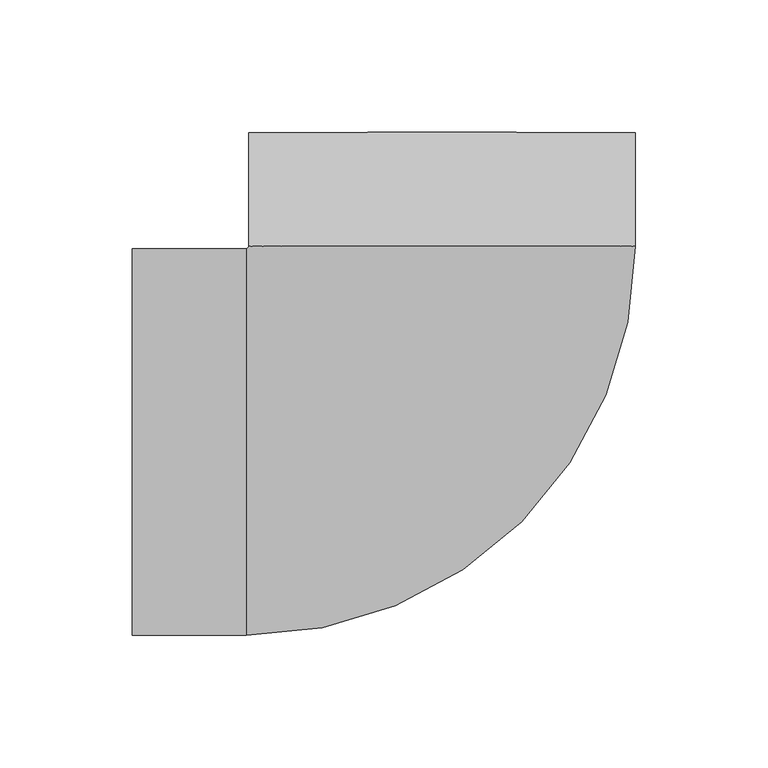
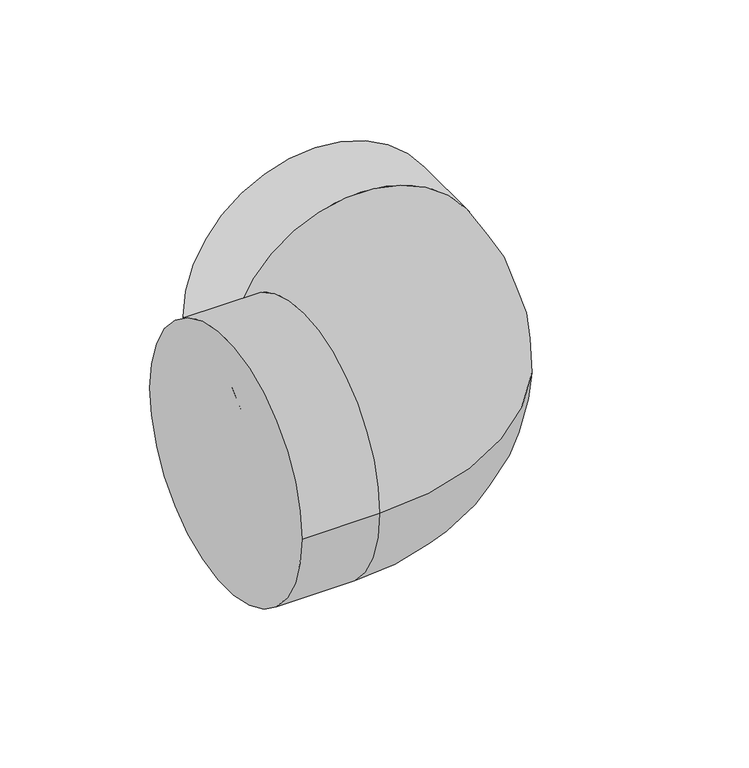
"""IFC4 building model written with IfcOpenShell, lengths in millimetres: pipe fitting geometry, NIRON RED termofusion codo : Estándar."""

import ifcopenshell
import ifcopenshell.guid

model = None  # the IFC model being written
_history = None  # IfcOwnerHistory: only IFC2X3 demands one
_inside = {}  # id of a spatial element -> (the spatial element, [elements in it])
_under = {}  # id of a project, library or spatial element -> (it, [spatial elements below it])
_declared = {}  # id of a project -> (the project, [libraries it declares])
_typed = {}  # id of a type object -> (the type object, [elements of that type])
_made_of = {}  # id of a material, layer set ... -> (it, [elements and type objects made of it])


def new_model(schema):
    """Start an empty IFC model of exactly this schema.

    Asked for "IFC4X3", IfcOpenShell would pick the latest addendum, in which some entities
    have other attributes; the version numbers below select the first issue.
    IFC2X3 requires an IfcOwnerHistory on every rooted entity: one is made here for all.
    """
    global model, _history
    if schema == "IFC4X3":
        model = ifcopenshell.file(schema_version=(4, 3, 0, 0))
    else:
        model = ifcopenshell.file(schema=schema)
    _inside.clear()
    _under.clear()
    _declared.clear()
    _typed.clear()
    _made_of.clear()
    _history = None
    if model.schema == "IFC2X3":
        org = make("IfcOrganization", Name="unknown")
        user = make(
            "IfcPersonAndOrganization",
            ThePerson=make("IfcPerson", FamilyName="unknown"),
            TheOrganization=org,
        )
        app = make(
            "IfcApplication",
            ApplicationDeveloper=org,
            Version="unknown",
            ApplicationFullName="unknown",
            ApplicationIdentifier="unknown",
        )
        _history = make(
            "IfcOwnerHistory",
            OwningUser=user,
            OwningApplication=app,
            ChangeAction="ADDED",
            CreationDate=0,
        )
    return model


def make(cls, **values):
    """One entity of the class cls with the attributes given. An attribute that is None is left unset."""
    return model.create_entity(
        cls, **{name: value for name, value in values.items() if value is not None}
    )


def rooted(cls, **values):
    """An entity with a GlobalId (a new one), such as an element, a storey or a relation."""
    return make(cls, GlobalId=ifcopenshell.guid.new(), OwnerHistory=_history, **values)


def si_unit(unit_type, name, prefix=None):
    """IfcSIUnit, for example si_unit("LENGTHUNIT", "METRE", prefix="MILLI")."""
    return make("IfcSIUnit", UnitType=unit_type, Prefix=prefix, Name=name)


def assignment(units):
    """IfcUnitAssignment: the units of a project."""
    return None if units is None else make("IfcUnitAssignment", Units=units)


def point(xyz):
    """IfcCartesianPoint."""
    return None if xyz is None else make("IfcCartesianPoint", Coordinates=xyz)


def direction(xyz):
    """IfcDirection."""
    return None if xyz is None else make("IfcDirection", DirectionRatios=xyz)


def frame(location, z_axis=None, x_axis=None):
    """IfcAxis2Placement3D, a coordinate frame: its origin and axes. An axis left out is left unset."""
    return make(
        "IfcAxis2Placement3D",
        Location=point(location),
        Axis=direction(z_axis),
        RefDirection=direction(x_axis),
    )


def origin():
    """The frame at (0, 0, 0) with its axes left unset."""
    return frame((0.0, 0.0, 0.0))


def place(relative_to, where):
    """IfcLocalPlacement: puts the frame where relative to a parent placement (None: the world)."""
    return make(
        "IfcLocalPlacement", PlacementRelTo=relative_to, RelativePlacement=where
    )


def context(
    kind, dimensions, precision=None, world=None, true_north=None, identifier=None
):
    """IfcGeometricRepresentationContext, for example the 3D "Model" context."""
    return make(
        "IfcGeometricRepresentationContext",
        ContextIdentifier=identifier,
        ContextType=kind,
        CoordinateSpaceDimension=dimensions,
        Precision=precision,
        WorldCoordinateSystem=world,
        TrueNorth=true_north,
    )


def project(units=None, contexts=None):
    """IfcProject with its units and contexts."""
    return rooted(
        "IfcProject",
        Name="project",
        RepresentationContexts=contexts,
        UnitsInContext=assignment(units),
    )


def spatial(cls, under=None, at=None, **own):
    """A site, building, storey or space (cls), placed at a placement, below another one or the project."""
    s = rooted(cls, ObjectPlacement=at, **own)
    if under is not None:
        _under.setdefault(under.id(), (under, []))[1].append(s)
    return s


def circle_curve(where, radius):
    """IfcCircle in the frame where."""
    return make("IfcCircle", Position=where, Radius=radius)


def ellipse_curve(where, semi_axis1, semi_axis2):
    """IfcEllipse in the frame where."""
    return make(
        "IfcEllipse", Position=where, SemiAxis1=semi_axis1, SemiAxis2=semi_axis2
    )


def trimmed(basis, trim1, trim2, sense, master):
    """IfcTrimmedCurve: the piece of a basis curve between two trims."""
    return make(
        "IfcTrimmedCurve",
        BasisCurve=basis,
        Trim1=trim1,
        Trim2=trim2,
        SenseAgreement=sense,
        MasterRepresentation=master,
    )


def shape(context_of_items, identifier, shape_type, items):
    """IfcShapeRepresentation: the items that make up one representation, for example the "Body"."""
    return make(
        "IfcShapeRepresentation",
        ContextOfItems=context_of_items,
        RepresentationIdentifier=identifier,
        RepresentationType=shape_type,
        Items=items,
    )


def source(mapping_origin, context_of_items, identifier, shape_type, items):
    """IfcRepresentationMap: a shape defined once, which mapped items show again and again."""
    return make(
        "IfcRepresentationMap",
        MappingOrigin=mapping_origin,
        MappedRepresentation=shape(context_of_items, identifier, shape_type, items),
    )


def transform(
    local_origin,
    x_axis=None,
    y_axis=None,
    z_axis=None,
    scale=None,
    scale2=None,
    scale3=None,
    uniform=True,
):
    """IfcCartesianTransformationOperator3D, or its non-uniform kind. x_axis, y_axis, z_axis: its Axis1, 2, 3."""
    if uniform:
        return make(
            "IfcCartesianTransformationOperator3D",
            Axis1=direction(x_axis),
            Axis2=direction(y_axis),
            LocalOrigin=point(local_origin),
            Scale=scale,
            Axis3=direction(z_axis),
        )
    return make(
        "IfcCartesianTransformationOperator3DnonUniform",
        Axis1=direction(x_axis),
        Axis2=direction(y_axis),
        LocalOrigin=point(local_origin),
        Scale=scale,
        Axis3=direction(z_axis),
        Scale2=scale2,
        Scale3=scale3,
    )


def mapped(mapping_source, mapping_target):
    """IfcMappedItem: shows the shape of a source again, moved by a transform."""
    return make(
        "IfcMappedItem", MappingSource=mapping_source, MappingTarget=mapping_target
    )


def made_of(thing, what):
    """Note that an element or type object is made of a material, layer set ...; save() writes the relation."""
    if what is not None:
        _made_of.setdefault(what.id(), (what, []))[1].append(thing)
    return thing


def element(
    cls,
    number,
    at=None,
    inside=None,
    cuts=None,
    type_object=None,
    material=None,
    context=None,
    identifier="Body",
    shape_type=None,
    held_by="IfcProductDefinitionShape",
    body=None,
    shapes=None,
    **own,
):
    """One element of the class cls, such as IfcWall. Its Tag is "e" and its number.

    at: its placement. inside: the storey or other place that contains it. cuts: it is an
    opening in that element (IfcRelVoidsElement). A single representation is given by context,
    identifier, shape_type and body (its items); several are given by shapes. held_by: the class
    of the entity that holds the representations. save() writes the other relations.
    """
    e = rooted(cls, Tag="e%d" % number, ObjectPlacement=at, **own)
    if body is not None:
        shapes = [shape(context, identifier, shape_type, body)]
    if shapes is not None:
        e.Representation = make(held_by, Representations=shapes)
    if inside is not None:
        _inside.setdefault(inside.id(), (inside, []))[1].append(e)
    if cuts is not None:
        rooted(
            "IfcRelVoidsElement", RelatingBuildingElement=cuts, RelatedOpeningElement=e
        )
    if type_object is not None:
        _typed.setdefault(type_object.id(), (type_object, []))[1].append(e)
    return made_of(e, material)


def aggregate(whole, parts):
    """IfcRelAggregates: a whole, such as a stair, and the parts it consists of."""
    return rooted("IfcRelAggregates", RelatingObject=whole, RelatedObjects=parts)


def save(model, path):
    """Write the relations noted so far, then the file.

    IfcRelAggregates (storeys below a building ...), IfcRelContainedInSpatialStructure (elements
    in a storey), IfcRelDefinesByType, IfcRelAssociatesMaterial and IfcRelDeclares: one each for
    every whole, place, type object, material and project.
    """
    for whole, parts in _under.values():
        aggregate(whole, parts)
    for where, things in _inside.values():
        rooted(
            "IfcRelContainedInSpatialStructure",
            RelatedElements=things,
            RelatingStructure=where,
        )
    for kind, things in _typed.values():
        rooted("IfcRelDefinesByType", RelatedObjects=things, RelatingType=kind)
    for what, things in _made_of.values():
        rooted("IfcRelAssociatesMaterial", RelatedObjects=things, RelatingMaterial=what)
    for by, libraries in _declared.values():
        rooted("IfcRelDeclares", RelatingContext=by, RelatedDefinitions=libraries)
    model.write(path)


def plane_surface(at):
    """IfcPlane: the flat surface through the origin of the frame at, square to its z axis."""
    return make("IfcPlane", Position=at)


def cylinder_surface(at, radius):
    """IfcCylindricalSurface: all points at the distance radius from the z axis of the frame at."""
    return make("IfcCylindricalSurface", Position=at, Radius=radius)


def revolved_surface(curve, axis_point, axis_direction):
    """IfcSurfaceOfRevolution: the curve turned about the line through axis_point along axis_direction."""
    return make(
        "IfcSurfaceOfRevolution",
        SweptCurve=make("IfcArbitraryOpenProfileDef", ProfileType="CURVE", Curve=curve),
        AxisPosition=make("IfcAxis1Placement", Location=point(axis_point), Axis=direction(axis_direction)),
    )


def advanced_brep(points, edges, surfaces, faces):
    """IfcAdvancedBrep: a solid bounded by faces that lie on surfaces and meet in shared edges.

    An edge is (start, end): straight between two places in points (the first is 0);
    or (start, end, curve); or (start, end, curve, False) where it runs against its curve.
    A face is (place in surfaces, loops), or (place, loops, False) where it looks against
    its surface's normal. A loop lists edges by number (the first is 1), with a minus sign
    where the edge is run from its end to its start. The first loop is the outer one.
    """
    corners = [point(p) for p in points]
    vertices = [make("IfcVertexPoint", VertexGeometry=c) for c in corners]
    made = []
    for start, end, *more in edges:
        made.append(
            make(
                "IfcEdgeCurve",
                EdgeStart=vertices[start],
                EdgeEnd=vertices[end],
                EdgeGeometry=more[0] if more else make("IfcPolyline", Points=[corners[start], corners[end]]),
                SameSense=more[1] if len(more) > 1 else True,
            )
        )
    hull = []
    for where, loops, *sense in faces:
        bounds = []
        for j, loop in enumerate(loops):
            ring = [make("IfcOrientedEdge", EdgeElement=made[abs(k) - 1], Orientation=k > 0) for k in loop]
            bounds.append(
                make(
                    "IfcFaceOuterBound" if j == 0 else "IfcFaceBound",
                    Bound=make("IfcEdgeLoop", EdgeList=ring),
                    Orientation=True,
                )
            )
        hull.append(make("IfcAdvancedFace", Bounds=bounds, FaceSurface=surfaces[where], SameSense=sense[0] if sense else True))
    return make("IfcAdvancedBrep", Outer=make("IfcClosedShell", CfsFaces=hull))


def pipe_fitting_beeb87af(model_context):
    return source(origin(), model_context, "Body", "AdvancedBrep", [
        advanced_brep(
        [(-116.79375, -73.0, 0.0), (-116.79375, 73.0, 0.0), (-73.79375, -73.0, 0.0), (-73.79375, 73.0, 0.0), (-73.0, 73.79375, 0.0), (73.0, 73.79375, 0.0), (0.0, 73.79375, 73.0), (0.0, 73.79375, -73.0), (73.0, 116.79375, 0.0), (-73.0, 116.79375, 0.0)],
        [
            (0, 1, circle_curve(frame((-116.79375, 0.0, 0.0), z_axis=(-1.0, 0.0, 0.0), x_axis=(0.0, 1.0, 0.0)), 73.0)),
            (1, 0, circle_curve(frame((-116.79375, 0.0, 0.0), z_axis=(-1.0, 0.0, 0.0), x_axis=(0.0, 1.0, 0.0)), 73.0)),
            (0, 2),
            (2, 3, circle_curve(frame((-73.79375, 0.0, 0.0), z_axis=(-1.0, 0.0, 0.0), x_axis=(0.0, 1.0, 0.0)), 73.0)),
            (3, 1),
            (3, 2, circle_curve(frame((-73.79375, 0.0, 0.0), z_axis=(-1.0, 0.0, 0.0), x_axis=(0.0, 1.0, 0.0)), 73.0)),
            (4, 3, circle_curve(frame((-73.79375, 73.79375, 0.0), z_axis=(0.0, 0.0, -1.0), x_axis=(0.0, -1.0, 0.0)), 0.79375)),
            (2, 5, circle_curve(frame((-73.79375, 73.79375, 0.0), z_axis=(0.0, 0.0, 1.0), x_axis=(0.0, -1.0, 0.0)), 146.79375)),
            (5, 6, circle_curve(frame((0.0, 73.79375, 0.0), z_axis=(0.0, -1.0, 0.0), x_axis=(-1.0, 0.0, 0.0)), 73.0)),
            (6, 4, circle_curve(frame((0.0, 73.79375, 0.0), z_axis=(0.0, -1.0, 0.0), x_axis=(-1.0, 0.0, 0.0)), 73.0)),
            (4, 7, circle_curve(frame((0.0, 73.79375, 0.0), z_axis=(0.0, -1.0, 0.0), x_axis=(-1.0, 0.0, 0.0)), 73.0)),
            (7, 5, circle_curve(frame((0.0, 73.79375, 0.0), z_axis=(0.0, -1.0, 0.0), x_axis=(-1.0, 0.0, 0.0)), 73.0)),
            (8, 9, circle_curve(frame((0.0, 116.79375, 0.0), z_axis=(0.0, 1.0, 0.0), x_axis=(-1.0, 0.0, 0.0)), 73.0)),
            (9, 8, circle_curve(frame((0.0, 116.79375, 0.0), z_axis=(0.0, 1.0, 0.0), x_axis=(-1.0, 0.0, 0.0)), 73.0)),
            (9, 4),
            (5, 8),
        ],
        [
            plane_surface(frame((-116.79375, 0.0, 0.0), z_axis=(-1.0, 0.0, 0.0), x_axis=(0.0, 0.0, 1.0))),
            cylinder_surface(frame((-116.79375, 0.0, 0.0), z_axis=(-1.0, 0.0, 0.0), x_axis=(0.0, 1.0, 0.0)), 73.0),
            revolved_surface(trimmed(ellipse_curve(frame((-73.79375, 0.0, 0.0), z_axis=(-1.0, 0.0, 0.0), x_axis=(0.0, 1.0, 0.0)), 73.0, 73.0), [point((-73.79375, -73.0, 0.0))], [point((-73.79375, 73.0, 0.0))], True, "CARTESIAN"), (-73.79375, 73.79375, 0.0), (0.0, 0.0, 1.0)),
            revolved_surface(trimmed(ellipse_curve(frame((-73.79375, 0.0, 0.0), z_axis=(-1.0, 0.0, 0.0), x_axis=(0.0, 1.0, 0.0)), 73.0, 73.0), [point((-73.79375, 73.0, 0.0))], [point((-73.79375, -73.0, 0.0))], True, "CARTESIAN"), (-73.79375, 73.79375, 0.0), (0.0, 0.0, 1.0)),
            plane_surface(frame((0.0, 116.79375, 0.0), z_axis=(0.0, 1.0, 0.0), x_axis=(0.0, 0.0, 1.0))),
            cylinder_surface(frame((0.0, 73.79375, 0.0), z_axis=(0.0, -1.0, 0.0), x_axis=(-1.0, 0.0, 0.0)), 73.0),
        ],
        [
            (0, [[1, 2]]),
            (1, [[-1, 3, 4, 5]]),
            (1, [[-2, -5, 6, -3]]),
            (2, [[7, -4, 8, 9, 10]]),
            (3, [[-7, 11, 12, -8, -6]]),
            (4, [[13, 14]]),
            (5, [[-14, 15, -10, -9, 16]]),
            (5, [[-13, -16, -12, -11, -15]]),
        ],
    ),
    ])


if __name__ == "__main__":
    model = new_model("IFC4")
    model_context = context("Model", 3, world=origin())
    ifc_project = project(units=[si_unit("LENGTHUNIT", "METRE", prefix="MILLI")], contexts=[model_context])
    site = spatial("IfcSite", under=ifc_project)
    building = spatial("IfcBuilding", under=site)
    placement = place(None, origin())
    pipe_fitting_shape = pipe_fitting_beeb87af(model_context)
    element("IfcPipeFitting", 1, ObjectType="NIRON RED termofusion codo : Estándar", at=placement, inside=building, context=model_context, shape_type="MappedRepresentation", body=[
        mapped(pipe_fitting_shape, transform((0.0, 0.0, 0.0), x_axis=(1.0, 0.0, 0.0), y_axis=(0.0, 1.0, 0.0), z_axis=(0.0, 0.0, 1.0))),
    ])
    save(model, "model.ifc")
